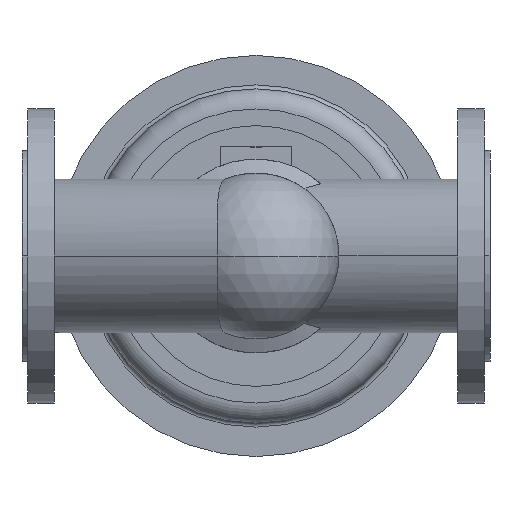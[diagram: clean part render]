
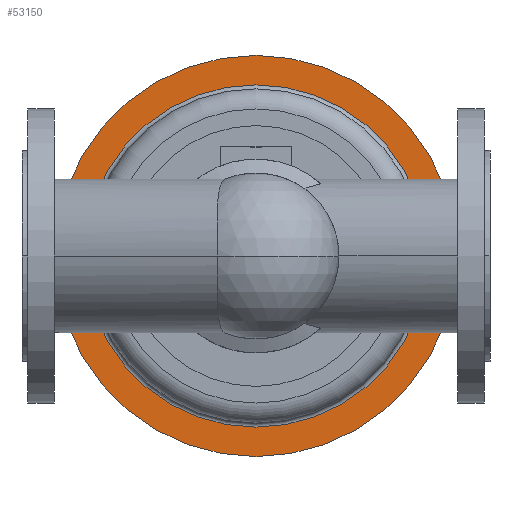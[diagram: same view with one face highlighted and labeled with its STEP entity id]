
A CAD part, front view. The second image highlights one B-rep face of the part: STEP entity #53150.
In plain terms, the highlighted planar face has unit normal (0, -1, 0).
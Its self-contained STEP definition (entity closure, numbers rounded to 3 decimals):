
#52650=CARTESIAN_POINT('',(47.,707.,0.));
#52660=VERTEX_POINT('',#52650);
#52690=CARTESIAN_POINT('',(175.,707.,0.));
#52700=DIRECTION('',(0.,1.,0.));
#52710=DIRECTION('',(1.,0.,0.));
#52720=AXIS2_PLACEMENT_3D('',#52690,#52700,#52710);
#52730=CIRCLE('',#52720,128.);
#52740=CARTESIAN_POINT('',(303.,707.,0.));
#52750=VERTEX_POINT('',#52740);
#52760=EDGE_CURVE('',#52660,#52750,#52730,.T.);
#52900=CARTESIAN_POINT('',(314.,707.,0.));
#52910=DIRECTION('',(0.,-1.,0.));
#52920=DIRECTION('',(-1.,0.,0.));
#52930=AXIS2_PLACEMENT_3D('',#52900,#52910,#52920);
#52940=PLANE('',#52930);
#52950=CARTESIAN_POINT('',(175.,707.,0.));
#52960=DIRECTION('',(0.,1.,0.));
#52970=DIRECTION('',(1.,0.,0.));
#52980=AXIS2_PLACEMENT_3D('',#52950,#52960,#52970);
#52990=CIRCLE('',#52980,150.);
#53000=CARTESIAN_POINT('',(25.,707.,0.));
#53010=VERTEX_POINT('',#53000);
#53020=CARTESIAN_POINT('',(325.,707.,0.));
#53030=VERTEX_POINT('',#53020);
#53040=EDGE_CURVE('',#53010,#53030,#52990,.T.);
#53050=ORIENTED_EDGE('',*,*,#53040,.F.);
#53060=EDGE_CURVE('',#53030,#53010,#52990,.T.);
#53070=ORIENTED_EDGE('',*,*,#53060,.F.);
#53080=EDGE_LOOP('',(#53070,#53050));
#53090=FACE_OUTER_BOUND('',#53080,.T.);
#53100=EDGE_CURVE('',#52750,#52660,#52730,.T.);
#53110=ORIENTED_EDGE('',*,*,#53100,.T.);
#53120=ORIENTED_EDGE('',*,*,#52760,.T.);
#53130=EDGE_LOOP('',(#53120,#53110));
#53140=FACE_BOUND('',#53130,.T.);
#53150=ADVANCED_FACE('',(#53090,#53140),#52940,.T.);
